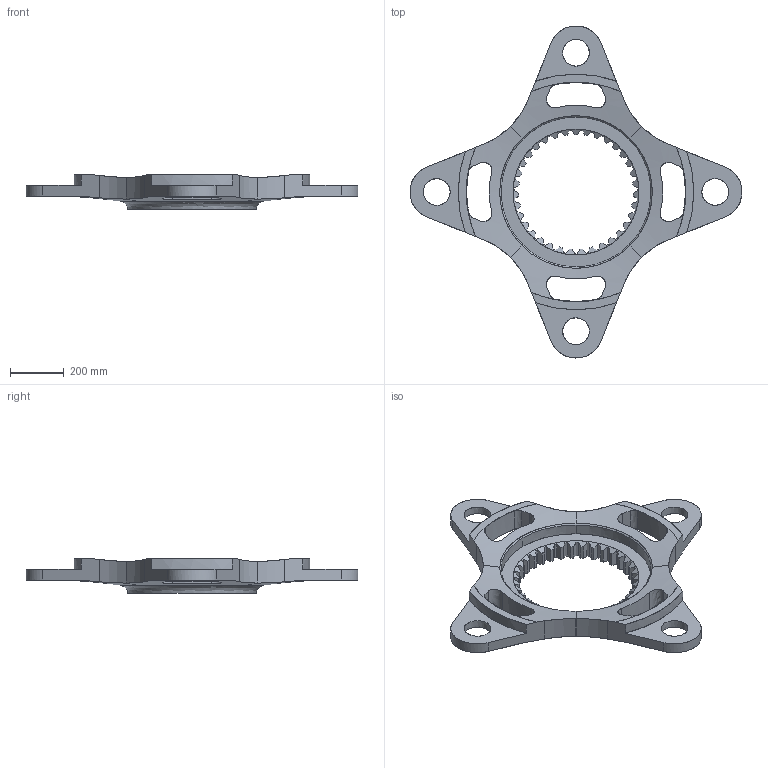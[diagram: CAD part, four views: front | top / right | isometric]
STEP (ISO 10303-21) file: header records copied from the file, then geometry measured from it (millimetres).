
FILE_DESCRIPTION(/* description */ (''),/* implementation_level */ '2;1');
FILE_NAME(/* name */ 'Spider_v2',/* time_stamp */ '2026-04-14T10:26:21+02:00',/* author */ (''),/* organization */ (''),/* preprocessor_version */ 'ST-DEVELOPER v20',/* originating_system */ '',/* authorisation */ '');
FILE_SCHEMA (('AUTOMOTIVE_DESIGN { 1 0 10303 214 3 1 1 }'));
Length unit declared in the file: centimetre
Bounding box: 1240 x 1240 x 130 mm (x, y, z)
Surface area: 1550554.6 mm2 (no closed solid volume)
Topology: 0 solids, 248 shells, 248 faces, 1532 edges, 1516 vertices
Faces by surface type: bspline 248
Entity records: 21830 total; most frequent: CARTESIAN_POINT 13978, ORIENTED_EDGE 1548, EDGE_CURVE 1532, VERTEX_POINT 1516, B_SPLINE_CURVE_WITH_KNOTS 1484, EDGE_LOOP 264, STYLED_ITEM 248, FACE_OUTER_BOUND 248
